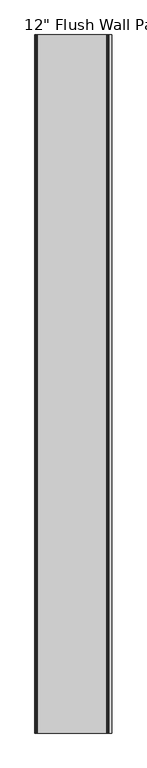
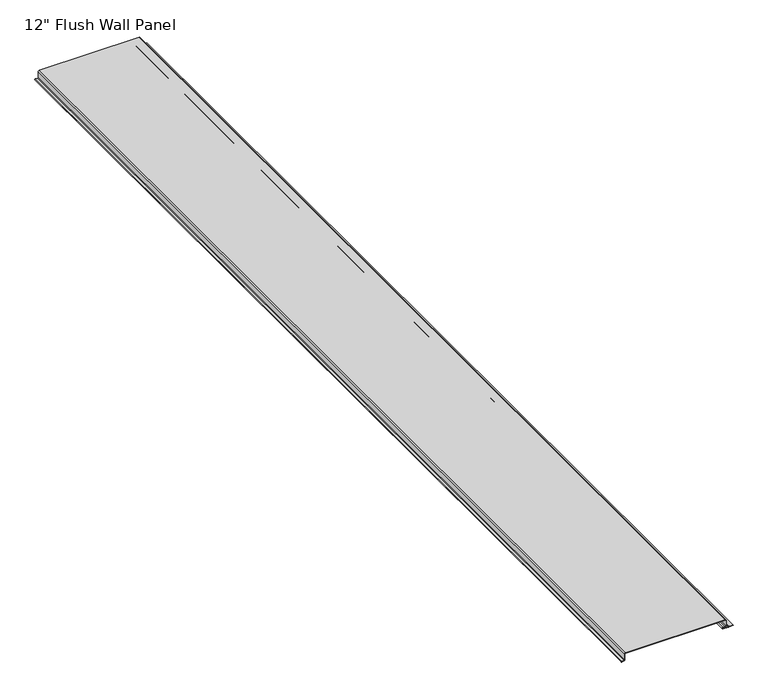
"""IFC4 building model written with IfcOpenShell, lengths in millimetres: proxy geometry."""

import ifcopenshell
import ifcopenshell.guid

model = None  # the IFC model being written
_history = None  # IfcOwnerHistory: only IFC2X3 demands one
_inside = {}  # id of a spatial element -> (the spatial element, [elements in it])
_under = {}  # id of a project, library or spatial element -> (it, [spatial elements below it])
_declared = {}  # id of a project -> (the project, [libraries it declares])
_typed = {}  # id of a type object -> (the type object, [elements of that type])
_made_of = {}  # id of a material, layer set ... -> (it, [elements and type objects made of it])


def new_model(schema):
    """Start an empty IFC model of exactly this schema.

    Asked for "IFC4X3", IfcOpenShell would pick the latest addendum, in which some entities
    have other attributes; the version numbers below select the first issue.
    IFC2X3 requires an IfcOwnerHistory on every rooted entity: one is made here for all.
    """
    global model, _history
    if schema == "IFC4X3":
        model = ifcopenshell.file(schema_version=(4, 3, 0, 0))
    else:
        model = ifcopenshell.file(schema=schema)
    _inside.clear()
    _under.clear()
    _declared.clear()
    _typed.clear()
    _made_of.clear()
    _history = None
    if model.schema == "IFC2X3":
        org = make("IfcOrganization", Name="unknown")
        user = make(
            "IfcPersonAndOrganization",
            ThePerson=make("IfcPerson", FamilyName="unknown"),
            TheOrganization=org,
        )
        app = make(
            "IfcApplication",
            ApplicationDeveloper=org,
            Version="unknown",
            ApplicationFullName="unknown",
            ApplicationIdentifier="unknown",
        )
        _history = make(
            "IfcOwnerHistory",
            OwningUser=user,
            OwningApplication=app,
            ChangeAction="ADDED",
            CreationDate=0,
        )
    return model


def make(cls, **values):
    """One entity of the class cls with the attributes given. An attribute that is None is left unset."""
    return model.create_entity(
        cls, **{name: value for name, value in values.items() if value is not None}
    )


def rooted(cls, **values):
    """An entity with a GlobalId (a new one), such as an element, a storey or a relation."""
    return make(cls, GlobalId=ifcopenshell.guid.new(), OwnerHistory=_history, **values)


def si_unit(unit_type, name, prefix=None):
    """IfcSIUnit, for example si_unit("LENGTHUNIT", "METRE", prefix="MILLI")."""
    return make("IfcSIUnit", UnitType=unit_type, Prefix=prefix, Name=name)


def assignment(units):
    """IfcUnitAssignment: the units of a project."""
    return None if units is None else make("IfcUnitAssignment", Units=units)


def point(xyz):
    """IfcCartesianPoint."""
    return None if xyz is None else make("IfcCartesianPoint", Coordinates=xyz)


def direction(xyz):
    """IfcDirection."""
    return None if xyz is None else make("IfcDirection", DirectionRatios=xyz)


def frame(location, z_axis=None, x_axis=None):
    """IfcAxis2Placement3D, a coordinate frame: its origin and axes. An axis left out is left unset."""
    return make(
        "IfcAxis2Placement3D",
        Location=point(location),
        Axis=direction(z_axis),
        RefDirection=direction(x_axis),
    )


def frame_2d(location, x_axis=None):
    """IfcAxis2Placement2D, a coordinate frame in the plane: its origin and x axis."""
    return make(
        "IfcAxis2Placement2D", Location=point(location), RefDirection=direction(x_axis)
    )


def origin():
    """The frame at (0, 0, 0) with its axes left unset."""
    return frame((0.0, 0.0, 0.0))


def place(relative_to, where):
    """IfcLocalPlacement: puts the frame where relative to a parent placement (None: the world)."""
    return make(
        "IfcLocalPlacement", PlacementRelTo=relative_to, RelativePlacement=where
    )


def context(
    kind, dimensions, precision=None, world=None, true_north=None, identifier=None
):
    """IfcGeometricRepresentationContext, for example the 3D "Model" context."""
    return make(
        "IfcGeometricRepresentationContext",
        ContextIdentifier=identifier,
        ContextType=kind,
        CoordinateSpaceDimension=dimensions,
        Precision=precision,
        WorldCoordinateSystem=world,
        TrueNorth=true_north,
    )


def project(units=None, contexts=None):
    """IfcProject with its units and contexts."""
    return rooted(
        "IfcProject",
        Name="project",
        RepresentationContexts=contexts,
        UnitsInContext=assignment(units),
    )


def spatial(cls, under=None, at=None, **own):
    """A site, building, storey or space (cls), placed at a placement, below another one or the project."""
    s = rooted(cls, ObjectPlacement=at, **own)
    if under is not None:
        _under.setdefault(under.id(), (under, []))[1].append(s)
    return s


def polyline(points):
    """IfcPolyline through the points."""
    return make("IfcPolyline", Points=[point(p) for p in points])


def circle_curve(where, radius):
    """IfcCircle in the frame where."""
    return make("IfcCircle", Position=where, Radius=radius)


def trimmed(basis, trim1, trim2, sense, master):
    """IfcTrimmedCurve: the piece of a basis curve between two trims."""
    return make(
        "IfcTrimmedCurve",
        BasisCurve=basis,
        Trim1=trim1,
        Trim2=trim2,
        SenseAgreement=sense,
        MasterRepresentation=master,
    )


def segment(curve, same_sense, transition):
    """IfcCompositeCurveSegment."""
    return make(
        "IfcCompositeCurveSegment",
        Transition=transition,
        SameSense=same_sense,
        ParentCurve=curve,
    )


def composite_curve(segments, self_intersect=None):
    """IfcCompositeCurve: segments joined end to end."""
    return make("IfcCompositeCurve", Segments=segments, SelfIntersect=self_intersect)


def outline(outer, holes=None, kind="AREA"):
    """IfcArbitraryClosedProfileDef: a profile drawn as a closed curve; with holes, ...WithVoids."""
    if holes is None:
        return make("IfcArbitraryClosedProfileDef", ProfileType=kind, OuterCurve=outer)
    return make(
        "IfcArbitraryProfileDefWithVoids",
        ProfileType=kind,
        OuterCurve=outer,
        InnerCurves=holes,
    )


def extrude(swept, where, along, depth):
    """IfcExtrudedAreaSolid: the profile swept, set in the frame where, extruded along a direction by depth."""
    return make(
        "IfcExtrudedAreaSolid",
        SweptArea=swept,
        Position=where,
        ExtrudedDirection=direction(along),
        Depth=depth,
    )


def shape(context_of_items, identifier, shape_type, items):
    """IfcShapeRepresentation: the items that make up one representation, for example the "Body"."""
    return make(
        "IfcShapeRepresentation",
        ContextOfItems=context_of_items,
        RepresentationIdentifier=identifier,
        RepresentationType=shape_type,
        Items=items,
    )


def source(mapping_origin, context_of_items, identifier, shape_type, items):
    """IfcRepresentationMap: a shape defined once, which mapped items show again and again."""
    return make(
        "IfcRepresentationMap",
        MappingOrigin=mapping_origin,
        MappedRepresentation=shape(context_of_items, identifier, shape_type, items),
    )


def transform(
    local_origin,
    x_axis=None,
    y_axis=None,
    z_axis=None,
    scale=None,
    scale2=None,
    scale3=None,
    uniform=True,
):
    """IfcCartesianTransformationOperator3D, or its non-uniform kind. x_axis, y_axis, z_axis: its Axis1, 2, 3."""
    if uniform:
        return make(
            "IfcCartesianTransformationOperator3D",
            Axis1=direction(x_axis),
            Axis2=direction(y_axis),
            LocalOrigin=point(local_origin),
            Scale=scale,
            Axis3=direction(z_axis),
        )
    return make(
        "IfcCartesianTransformationOperator3DnonUniform",
        Axis1=direction(x_axis),
        Axis2=direction(y_axis),
        LocalOrigin=point(local_origin),
        Scale=scale,
        Axis3=direction(z_axis),
        Scale2=scale2,
        Scale3=scale3,
    )


def mapped(mapping_source, mapping_target):
    """IfcMappedItem: shows the shape of a source again, moved by a transform."""
    return make(
        "IfcMappedItem", MappingSource=mapping_source, MappingTarget=mapping_target
    )


def made_of(thing, what):
    """Note that an element or type object is made of a material, layer set ...; save() writes the relation."""
    if what is not None:
        _made_of.setdefault(what.id(), (what, []))[1].append(thing)
    return thing


def element(
    cls,
    number,
    at=None,
    inside=None,
    cuts=None,
    type_object=None,
    material=None,
    context=None,
    identifier="Body",
    shape_type=None,
    held_by="IfcProductDefinitionShape",
    body=None,
    shapes=None,
    **own,
):
    """One element of the class cls, such as IfcWall. Its Tag is "e" and its number.

    at: its placement. inside: the storey or other place that contains it. cuts: it is an
    opening in that element (IfcRelVoidsElement). A single representation is given by context,
    identifier, shape_type and body (its items); several are given by shapes. held_by: the class
    of the entity that holds the representations. save() writes the other relations.
    """
    e = rooted(cls, Tag="e%d" % number, ObjectPlacement=at, **own)
    if body is not None:
        shapes = [shape(context, identifier, shape_type, body)]
    if shapes is not None:
        e.Representation = make(held_by, Representations=shapes)
    if inside is not None:
        _inside.setdefault(inside.id(), (inside, []))[1].append(e)
    if cuts is not None:
        rooted(
            "IfcRelVoidsElement", RelatingBuildingElement=cuts, RelatedOpeningElement=e
        )
    if type_object is not None:
        _typed.setdefault(type_object.id(), (type_object, []))[1].append(e)
    return made_of(e, material)


def aggregate(whole, parts):
    """IfcRelAggregates: a whole, such as a stair, and the parts it consists of."""
    return rooted("IfcRelAggregates", RelatingObject=whole, RelatedObjects=parts)


def save(model, path):
    """Write the relations noted so far, then the file.

    IfcRelAggregates (storeys below a building ...), IfcRelContainedInSpatialStructure (elements
    in a storey), IfcRelDefinesByType, IfcRelAssociatesMaterial and IfcRelDeclares: one each for
    every whole, place, type object, material and project.
    """
    for whole, parts in _under.values():
        aggregate(whole, parts)
    for where, things in _inside.values():
        rooted(
            "IfcRelContainedInSpatialStructure",
            RelatedElements=things,
            RelatingStructure=where,
        )
    for kind, things in _typed.values():
        rooted("IfcRelDefinesByType", RelatedObjects=things, RelatingType=kind)
    for what, things in _made_of.values():
        rooted("IfcRelAssociatesMaterial", RelatedObjects=things, RelatingMaterial=what)
    for by, libraries in _declared.values():
        rooted("IfcRelDeclares", RelatingContext=by, RelatedDefinitions=libraries)
    model.write(path)


def proxy_1fe1eae3(model_context):
    return source(origin(), model_context, "Body", "SweptSolid", [
        extrude(outline(composite_curve([segment(trimmed(circle_curve(frame_2d((1.3208, 186.1001982)), 1.524), [point((-0.2032, 186.1001982))], [point((2.8448, 186.1001982))], True, "CARTESIAN"), True, "CONTINUOUS"), segment(polyline([(2.8448, 186.1001982), (2.8448, 193.1867982)]), True, "CONTINUOUS"), segment(trimmed(circle_curve(frame_2d((5.5372, 193.1867982)), 2.6924), [point((2.8448, 193.1867982))], [point((5.5372, 195.8791982))], False, "CARTESIAN"), True, "CONTINUOUS"), segment(polyline([(5.5372, 195.8791982), (21.9964, 195.8791982)]), True, "CONTINUOUS"), segment(trimmed(circle_curve(frame_2d((21.9964, 193.1867982)), 2.6924), [point((21.9964, 195.8791982))], [point((24.6888, 193.1867982))], False, "CARTESIAN"), True, "CONTINUOUS"), segment(polyline([(24.6888, 193.1867982), (24.6888, -106.2284018)]), True, "CONTINUOUS"), segment(trimmed(circle_curve(frame_2d((21.9964, -106.2284018)), 2.6924), [point((24.6888, -106.2284018))], [point((21.9964, -108.9208018))], False, "CARTESIAN"), True, "CONTINUOUS"), segment(polyline([(21.9964, -108.9208018), (3.9624, -108.9208018)]), True, "CONTINUOUS"), segment(trimmed(circle_curve(frame_2d((3.9624, -110.6480018)), 1.7272), [point((3.9624, -108.9208018))], [point((2.2352, -110.6480018))], True, "CARTESIAN"), True, "CONTINUOUS"), segment(polyline([(2.2352, -110.6480018), (2.2352, -118.4966018)]), True, "CONTINUOUS"), segment(trimmed(circle_curve(frame_2d((1.1176, -118.4966018)), 1.1176), [point((2.2352, -118.4966018))], [point((0.0, -118.4966018))], False, "CARTESIAN"), True, "CONTINUOUS"), segment(polyline([(0.0, -118.4966018), (0.0, -112.7562018), (0.8364409, -112.7562018), (0.7250979, -118.4023504)]), True, "CONTINUOUS"), segment(trimmed(circle_curve(frame_2d((1.1132676, -118.4023504)), 0.3881697), [point((0.7250979, -118.4023504))], [point((1.5014373, -118.4023504))], True, "CARTESIAN"), True, "CONTINUOUS"), segment(polyline([(1.5014373, -118.4023504), (1.5014373, -110.6884931)]), True, "CONTINUOUS"), segment(trimmed(circle_curve(frame_2d((4.0158886, -110.6884931)), 2.5144513), [point((1.5014373, -110.6884931))], [point((4.0158886, -108.1740418))], False, "CARTESIAN"), True, "CONTINUOUS"), segment(polyline([(4.0158886, -108.1740418), (22.041765, -108.1740418)]), True, "CONTINUOUS"), segment(trimmed(circle_curve(frame_2d((22.041765, -106.2737668)), 1.900275), [point((22.041765, -108.1740418))], [point((23.94204, -106.2737668))], True, "CARTESIAN"), True, "CONTINUOUS"), segment(polyline([(23.94204, -106.2737668), (23.94204, 193.2333808)]), True, "CONTINUOUS"), segment(trimmed(circle_curve(frame_2d((22.0429826, 193.2333808)), 1.8990574), [point((23.94204, 193.2333808))], [point((22.0429826, 195.1324382))], True, "CARTESIAN"), True, "CONTINUOUS"), segment(polyline([(22.0429826, 195.1324382), (5.4903166, 195.1324382)]), True, "CONTINUOUS"), segment(trimmed(circle_curve(frame_2d((5.4903166, 193.2336816)), 1.8987566), [point((5.4903166, 195.1324382))], [point((3.59156, 193.2336816))], True, "CARTESIAN"), True, "CONTINUOUS"), segment(polyline([(3.59156, 193.2336816), (3.59156, 186.1001982)]), True, "CONTINUOUS"), segment(trimmed(circle_curve(frame_2d((1.3208, 186.1001982)), 2.27076), [point((3.59156, 186.1001982))], [point((-0.94996, 186.1001982))], False, "CARTESIAN"), True, "CONTINUOUS"), segment(polyline([(-0.94996, 186.1001982), (-0.94996, 201.3052025), (-1.5971248, 202.693052)]), True, "CONTINUOUS"), segment(trimmed(circle_curve(frame_2d((-0.03175, 203.4229982)), 1.7272), [point((-1.5971248, 202.693052))], [point((-1.5971248, 204.1529445))], False, "CARTESIAN"), True, "CONTINUOUS"), segment(polyline([(-1.5971248, 204.1529445), (-0.94996, 205.5407939), (-0.94996, 216.3769982), (-0.0986239, 216.3769982), (-0.2032, 205.2640534), (-0.877743, 203.8174912)]), True, "CONTINUOUS"), segment(trimmed(circle_curve(frame_2d((-0.03175, 203.4229982)), 0.93345), [point((-0.877743, 203.8174912))], [point((-0.877743, 203.0285052))], True, "CARTESIAN"), True, "CONTINUOUS"), segment(polyline([(-0.877743, 203.0285052), (-0.2032, 201.5819431), (-0.2032, 186.1001982)]), True, "CONTINUOUS")], self_intersect=False)), frame((0.0, -3048.0, 0.0), z_axis=(0.0, 1.0, 0.0), x_axis=(0.0, 0.0, 1.0)), (0.0, 0.0, 1.0), 3048.0),
    ])


if __name__ == "__main__":
    model = new_model("IFC4")
    model_context = context("Model", 3, world=origin())
    ifc_project = project(units=[si_unit("LENGTHUNIT", "METRE", prefix="MILLI")], contexts=[model_context])
    site = spatial("IfcSite", under=ifc_project)
    building = spatial("IfcBuilding", under=site)
    placement = place(None, origin())
    proxy_shape = proxy_1fe1eae3(model_context)
    element("IfcBuildingElementProxy", 1, Name="Metal_Siding_Flush-Wall-Panel_Steelscape : 12\" Flush Wall Panel", ObjectType="Metal_Siding_Flush-Wall-Panel_Steelscape : 12\" Flush Wall Panel", at=placement, inside=building, context=model_context, shape_type="MappedRepresentation", body=[
        mapped(proxy_shape, transform((0.0, 0.0, 0.0), x_axis=(1.0, 0.0, 0.0), y_axis=(0.0, 1.0, 0.0), z_axis=(0.0, 0.0, 1.0))),
    ])
    save(model, "model.ifc")
